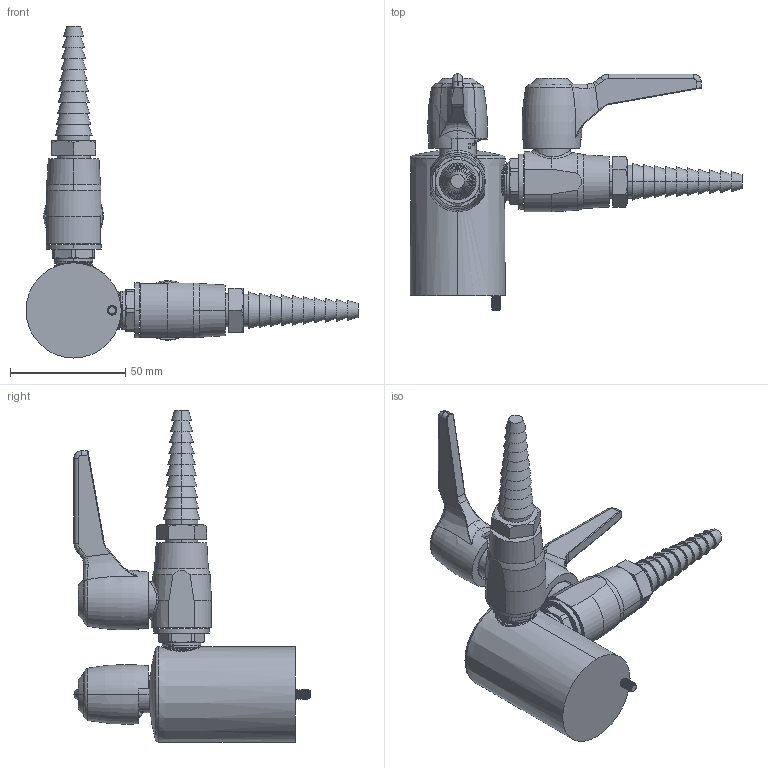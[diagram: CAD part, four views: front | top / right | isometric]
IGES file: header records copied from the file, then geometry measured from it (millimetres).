
Start section:  PTC IGES file: 982-VP909CAG.igs
Global section: file name: 982-VP909CAG.igs; native system: Creo Parametric by PTC Inc.; preprocessor: 2014500; author: usch_engrender; organization: Unknown; date: 20160415.165800; units: inch
Bounding box: 144.32 x 102.63 x 144.32 mm (x, y, z)
Surface area: 40683.2 mm2 (no closed solid volume)
Topology: 0 solids, 47 shells, 473 faces, 1220 edges, 787 vertices
Faces by surface type: revolution 290, bspline 183
